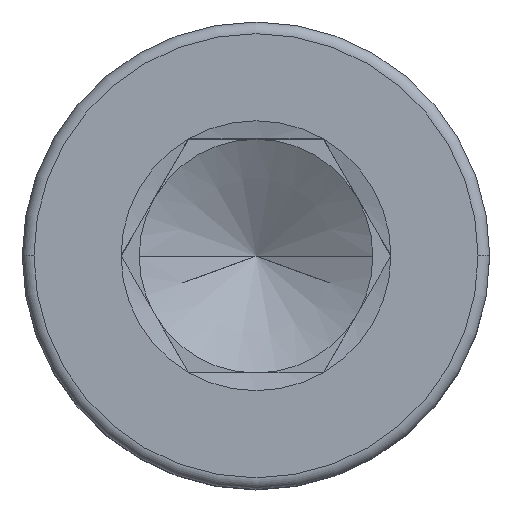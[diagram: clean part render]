
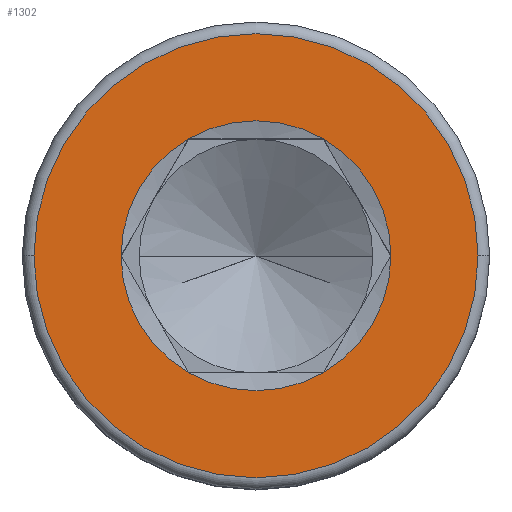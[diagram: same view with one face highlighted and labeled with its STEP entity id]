
A CAD part, top view. The second image highlights one B-rep face of the part: STEP entity #1302.
In plain terms, the highlighted planar face has unit normal (0, 0, 1).
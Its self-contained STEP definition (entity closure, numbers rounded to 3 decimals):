
#52 = AXIS2_PLACEMENT_3D ( 'NONE', #1642, #1486, #454 ) ;
#76 = CARTESIAN_POINT ( 'NONE',  ( 2.309, 0., 5. ) ) ;
#98 = DIRECTION ( 'NONE',  ( 0., 0., 1. ) ) ;
#99 = EDGE_CURVE ( 'NONE', #289, #1452, #317, .T. ) ;
#107 = EDGE_CURVE ( 'NONE', #592, #610, #168, .T. ) ;
#118 = CIRCLE ( 'NONE', #752, 2.309 ) ;
#127 = CARTESIAN_POINT ( 'NONE',  ( 0., 0., 5. ) ) ;
#138 = AXIS2_PLACEMENT_3D ( 'NONE', #980, #1844, #800 ) ;
#168 = CIRCLE ( 'NONE', #1438, 3.8 ) ;
#206 = EDGE_CURVE ( 'NONE', #610, #592, #1790, .T. ) ;
#212 = CARTESIAN_POINT ( 'NONE',  ( 0., 0., 5. ) ) ;
#222 = DIRECTION ( 'NONE',  ( 0., 0., 1. ) ) ;
#267 = CARTESIAN_POINT ( 'NONE',  ( -1.155, 2., 5. ) ) ;
#281 = EDGE_CURVE ( 'NONE', #1459, #1196, #412, .T. ) ;
#282 = CARTESIAN_POINT ( 'NONE',  ( -2.309, 0., 5. ) ) ;
#284 = CARTESIAN_POINT ( 'NONE',  ( 0., 0., 5. ) ) ;
#289 = VERTEX_POINT ( 'NONE', #684 ) ;
#291 = CARTESIAN_POINT ( 'NONE',  ( -1.155, -2., 5. ) ) ;
#317 = CIRCLE ( 'NONE', #1824, 2.309 ) ;
#330 = ORIENTED_EDGE ( 'NONE', *, *, #281, .F. ) ;
#376 = EDGE_LOOP ( 'NONE', ( #544, #330, #1541, #1701, #436, #622 ) ) ;
#399 = EDGE_CURVE ( 'NONE', #1882, #1871, #871, .T. ) ;
#405 = DIRECTION ( 'NONE',  ( 0., 0., 1. ) ) ;
#412 = CIRCLE ( 'NONE', #138, 2.309 ) ;
#421 = EDGE_CURVE ( 'NONE', #1196, #289, #1123, .T. ) ;
#436 = ORIENTED_EDGE ( 'NONE', *, *, #585, .F. ) ;
#444 = AXIS2_PLACEMENT_3D ( 'NONE', #1516, #948, #770 ) ;
#454 = DIRECTION ( 'NONE',  ( 1., 0., 0. ) ) ;
#468 = AXIS2_PLACEMENT_3D ( 'NONE', #284, #723, #762 ) ;
#544 = ORIENTED_EDGE ( 'NONE', *, *, #421, .F. ) ;
#551 = EDGE_LOOP ( 'NONE', ( #1849, #653 ) ) ;
#585 = EDGE_CURVE ( 'NONE', #1452, #1882, #1347, .T. ) ;
#592 = VERTEX_POINT ( 'NONE', #926 ) ;
#610 = VERTEX_POINT ( 'NONE', #1538 ) ;
#622 = ORIENTED_EDGE ( 'NONE', *, *, #99, .F. ) ;
#653 = ORIENTED_EDGE ( 'NONE', *, *, #206, .T. ) ;
#674 = DIRECTION ( 'NONE',  ( 0., 0., 1. ) ) ;
#684 = CARTESIAN_POINT ( 'NONE',  ( 1.155, 2., 5. ) ) ;
#723 = DIRECTION ( 'NONE',  ( 0., 0., 1. ) ) ;
#752 = AXIS2_PLACEMENT_3D ( 'NONE', #212, #222, #797 ) ;
#762 = DIRECTION ( 'NONE',  ( 1., 0., 0. ) ) ;
#770 = DIRECTION ( 'NONE',  ( 1., 0., 0. ) ) ;
#785 = AXIS2_PLACEMENT_3D ( 'NONE', #1209, #98, #1520 ) ;
#797 = DIRECTION ( 'NONE',  ( 1., 0., 0. ) ) ;
#800 = DIRECTION ( 'NONE',  ( 1., 0., 0. ) ) ;
#833 = FACE_OUTER_BOUND ( 'NONE', #551, .T. ) ;
#871 = CIRCLE ( 'NONE', #52, 2.309 ) ;
#926 = CARTESIAN_POINT ( 'NONE',  ( 3.8, 0., 5. ) ) ;
#948 = DIRECTION ( 'NONE',  ( 0., 0., 1. ) ) ;
#960 = FACE_BOUND ( 'NONE', #376, .T. ) ;
#980 = CARTESIAN_POINT ( 'NONE',  ( 0., 0., 5. ) ) ;
#1096 = EDGE_CURVE ( 'NONE', #1871, #1459, #118, .T. ) ;
#1123 = CIRCLE ( 'NONE', #468, 2.309 ) ;
#1196 = VERTEX_POINT ( 'NONE', #76 ) ;
#1209 = CARTESIAN_POINT ( 'NONE',  ( 0., 0., 5. ) ) ;
#1302 = ADVANCED_FACE ( 'NONE', ( #833, #960 ), #1515, .T. ) ;
#1306 = CARTESIAN_POINT ( 'NONE',  ( 0., 0., 5. ) ) ;
#1347 = CIRCLE ( 'NONE', #444, 2.309 ) ;
#1417 = DIRECTION ( 'NONE',  ( 0., 0., 1. ) ) ;
#1428 = DIRECTION ( 'NONE',  ( 1., 0., 0. ) ) ;
#1438 = AXIS2_PLACEMENT_3D ( 'NONE', #127, #405, #1881 ) ;
#1452 = VERTEX_POINT ( 'NONE', #267 ) ;
#1459 = VERTEX_POINT ( 'NONE', #1603 ) ;
#1467 = AXIS2_PLACEMENT_3D ( 'NONE', #1726, #1417, #1428 ) ;
#1486 = DIRECTION ( 'NONE',  ( 0., 0., 1. ) ) ;
#1515 = PLANE ( 'NONE',  #785 ) ;
#1516 = CARTESIAN_POINT ( 'NONE',  ( 0., 0., 5. ) ) ;
#1520 = DIRECTION ( 'NONE',  ( 1., 0., 0. ) ) ;
#1538 = CARTESIAN_POINT ( 'NONE',  ( -3.8, 0., 5. ) ) ;
#1541 = ORIENTED_EDGE ( 'NONE', *, *, #1096, .F. ) ;
#1603 = CARTESIAN_POINT ( 'NONE',  ( 1.155, -2., 5. ) ) ;
#1642 = CARTESIAN_POINT ( 'NONE',  ( 0., 0., 5. ) ) ;
#1701 = ORIENTED_EDGE ( 'NONE', *, *, #399, .F. ) ;
#1705 = DIRECTION ( 'NONE',  ( 1., 0., 0. ) ) ;
#1726 = CARTESIAN_POINT ( 'NONE',  ( 0., 0., 5. ) ) ;
#1790 = CIRCLE ( 'NONE', #1467, 3.8 ) ;
#1824 = AXIS2_PLACEMENT_3D ( 'NONE', #1306, #674, #1705 ) ;
#1844 = DIRECTION ( 'NONE',  ( 0., 0., 1. ) ) ;
#1849 = ORIENTED_EDGE ( 'NONE', *, *, #107, .T. ) ;
#1871 = VERTEX_POINT ( 'NONE', #291 ) ;
#1881 = DIRECTION ( 'NONE',  ( 1., 0., 0. ) ) ;
#1882 = VERTEX_POINT ( 'NONE', #282 ) ;
